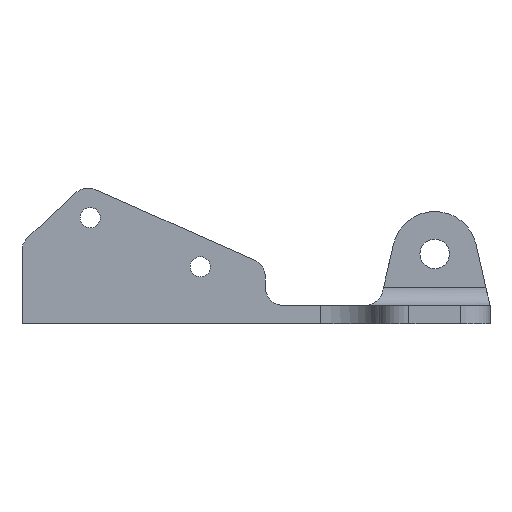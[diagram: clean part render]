
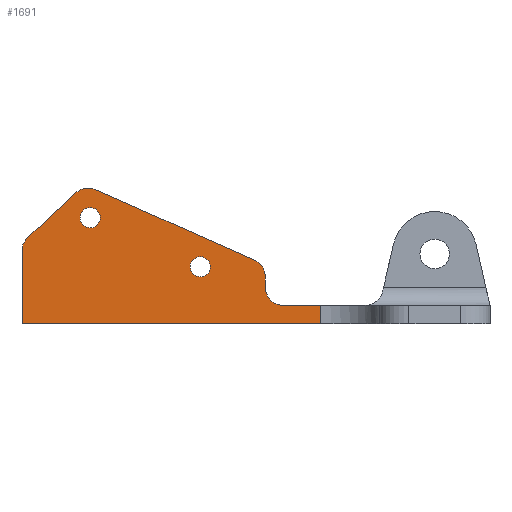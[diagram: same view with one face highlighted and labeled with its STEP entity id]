
A CAD part, left-side view. The second image highlights one B-rep face of the part: STEP entity #1691.
In plain terms, the highlighted planar face has unit normal (-1, 0, 0).
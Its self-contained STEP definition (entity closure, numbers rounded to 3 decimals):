
#114=CARTESIAN_POINT('Axis2P3D Location',(-11.2,78.606,15.519)) ;
#118=CARTESIAN_POINT('Vertex',(-11.2,81.356,15.519)) ;
#120=CARTESIAN_POINT('Vertex',(-11.2,75.856,15.519)) ;
#149=CARTESIAN_POINT('Axis2P3D Location',(-11.2,78.606,15.519)) ;
#171=CARTESIAN_POINT('Axis2P3D Location',(-11.2,108.502,28.83)) ;
#175=CARTESIAN_POINT('Vertex',(-11.2,105.752,28.83)) ;
#177=CARTESIAN_POINT('Vertex',(-11.2,111.252,28.83)) ;
#206=CARTESIAN_POINT('Axis2P3D Location',(-11.2,108.502,28.83)) ;
#902=CARTESIAN_POINT('Vertex',(-11.2,46.,0.)) ;
#905=CARTESIAN_POINT('Line Origine',(-11.2,86.5,0.)) ;
#909=CARTESIAN_POINT('Vertex',(-11.2,127.,0.)) ;
#1175=CARTESIAN_POINT('Line Origine',(-11.2,46.,2.5)) ;
#1179=CARTESIAN_POINT('Vertex',(-11.2,46.,5.)) ;
#1419=CARTESIAN_POINT('Vertex',(-11.2,112.42,35.565)) ;
#1422=CARTESIAN_POINT('Axis2P3D Location',(-11.2,109.014,31.904)) ;
#1426=CARTESIAN_POINT('Vertex',(-11.2,106.98,36.472)) ;
#1445=CARTESIAN_POINT('Vertex',(-11.2,63.966,17.321)) ;
#1455=CARTESIAN_POINT('Line Origine',(-11.2,85.473,26.896)) ;
#1479=CARTESIAN_POINT('Axis2P3D Location',(-11.2,66.,12.753)) ;
#1483=CARTESIAN_POINT('Vertex',(-11.2,61.,12.753)) ;
#1509=CARTESIAN_POINT('Vertex',(-11.2,61.,10.)) ;
#1517=CARTESIAN_POINT('Line Origine',(-11.2,61.,11.376)) ;
#1540=CARTESIAN_POINT('Vertex',(-11.2,56.,5.)) ;
#1548=CARTESIAN_POINT('Axis2P3D Location',(-11.2,56.,10.)) ;
#1622=CARTESIAN_POINT('Line Origine',(-11.2,118.913,29.524)) ;
#1626=CARTESIAN_POINT('Vertex',(-11.2,125.406,23.483)) ;
#1648=CARTESIAN_POINT('Axis2P3D Location',(-11.2,127.,0.)) ;
#1653=CARTESIAN_POINT('Line Origine',(-11.2,127.,9.911)) ;
#1657=CARTESIAN_POINT('Vertex',(-11.2,127.,19.823)) ;
#1660=CARTESIAN_POINT('Line Origine',(-11.2,51.,5.)) ;
#1665=CARTESIAN_POINT('Axis2P3D Location',(-11.2,122.,19.823)) ;
#115=DIRECTION('Axis2P3D Direction',(1.,0.,0.)) ;
#150=DIRECTION('Axis2P3D Direction',(1.,0.,0.)) ;
#172=DIRECTION('Axis2P3D Direction',(1.,0.,0.)) ;
#207=DIRECTION('Axis2P3D Direction',(1.,0.,0.)) ;
#906=DIRECTION('Vector Direction',(0.,-1.,0.)) ;
#1176=DIRECTION('Vector Direction',(0.,0.,1.)) ;
#1423=DIRECTION('Axis2P3D Direction',(1.,0.,0.)) ;
#1456=DIRECTION('Vector Direction',(0.,0.914,0.407)) ;
#1480=DIRECTION('Axis2P3D Direction',(1.,0.,0.)) ;
#1518=DIRECTION('Vector Direction',(0.,0.,1.)) ;
#1549=DIRECTION('Axis2P3D Direction',(1.,0.,0.)) ;
#1623=DIRECTION('Vector Direction',(0.,-0.732,0.681)) ;
#1649=DIRECTION('Axis2P3D Direction',(-1.,0.,0.)) ;
#1650=DIRECTION('Axis2P3D XDirection',(0.,-1.,0.)) ;
#1654=DIRECTION('Vector Direction',(0.,0.,-1.)) ;
#1661=DIRECTION('Vector Direction',(0.,-1.,0.)) ;
#1666=DIRECTION('Axis2P3D Direction',(-1.,0.,0.)) ;
#116=AXIS2_PLACEMENT_3D('Circle Axis2P3D',#114,#115,$) ;
#151=AXIS2_PLACEMENT_3D('Circle Axis2P3D',#149,#150,$) ;
#173=AXIS2_PLACEMENT_3D('Circle Axis2P3D',#171,#172,$) ;
#208=AXIS2_PLACEMENT_3D('Circle Axis2P3D',#206,#207,$) ;
#1424=AXIS2_PLACEMENT_3D('Circle Axis2P3D',#1422,#1423,$) ;
#1481=AXIS2_PLACEMENT_3D('Circle Axis2P3D',#1479,#1480,$) ;
#1550=AXIS2_PLACEMENT_3D('Circle Axis2P3D',#1548,#1549,$) ;
#1651=AXIS2_PLACEMENT_3D('Plane Axis2P3D',#1648,#1649,#1650) ;
#1667=AXIS2_PLACEMENT_3D('Circle Axis2P3D',#1665,#1666,$) ;
#1671=ORIENTED_EDGE('',*,*,#1659,.T.) ;
#1672=ORIENTED_EDGE('',*,*,#911,.T.) ;
#1673=ORIENTED_EDGE('',*,*,#1181,.T.) ;
#1674=ORIENTED_EDGE('',*,*,#1664,.F.) ;
#1675=ORIENTED_EDGE('',*,*,#1552,.T.) ;
#1676=ORIENTED_EDGE('',*,*,#1521,.T.) ;
#1677=ORIENTED_EDGE('',*,*,#1485,.F.) ;
#1678=ORIENTED_EDGE('',*,*,#1459,.T.) ;
#1679=ORIENTED_EDGE('',*,*,#1428,.F.) ;
#1680=ORIENTED_EDGE('',*,*,#1628,.F.) ;
#1681=ORIENTED_EDGE('',*,*,#1669,.F.) ;
#1684=ORIENTED_EDGE('',*,*,#210,.F.) ;
#1685=ORIENTED_EDGE('',*,*,#179,.F.) ;
#1688=ORIENTED_EDGE('',*,*,#153,.F.) ;
#1689=ORIENTED_EDGE('',*,*,#122,.F.) ;
#1686=FACE_BOUND('',#1683,.T.) ;
#1690=FACE_BOUND('',#1687,.T.) ;
#907=VECTOR('Line Direction',#906,1.) ;
#1177=VECTOR('Line Direction',#1176,1.) ;
#1457=VECTOR('Line Direction',#1456,1.) ;
#1519=VECTOR('Line Direction',#1518,1.) ;
#1624=VECTOR('Line Direction',#1623,1.) ;
#1655=VECTOR('Line Direction',#1654,1.) ;
#1662=VECTOR('Line Direction',#1661,1.) ;
#1691=ADVANCED_FACE('PartBody',(#1682,#1686,#1690),#1652,.T.) ;
#117=CIRCLE('generated circle',#116,2.75) ;
#152=CIRCLE('generated circle',#151,2.75) ;
#174=CIRCLE('generated circle',#173,2.75) ;
#209=CIRCLE('generated circle',#208,2.75) ;
#1425=CIRCLE('generated circle',#1424,5.) ;
#1482=CIRCLE('generated circle',#1481,5.) ;
#1551=CIRCLE('generated circle',#1550,5.) ;
#1668=CIRCLE('generated circle',#1667,5.) ;
#122=EDGE_CURVE('',#119,#121,#117,.F.) ;
#153=EDGE_CURVE('',#121,#119,#152,.F.) ;
#179=EDGE_CURVE('',#176,#178,#174,.F.) ;
#210=EDGE_CURVE('',#178,#176,#209,.F.) ;
#911=EDGE_CURVE('',#910,#903,#908,.T.) ;
#1181=EDGE_CURVE('',#903,#1180,#1178,.T.) ;
#1428=EDGE_CURVE('',#1420,#1427,#1425,.T.) ;
#1459=EDGE_CURVE('',#1446,#1427,#1458,.T.) ;
#1485=EDGE_CURVE('',#1446,#1484,#1482,.T.) ;
#1521=EDGE_CURVE('',#1510,#1484,#1520,.T.) ;
#1552=EDGE_CURVE('',#1541,#1510,#1551,.T.) ;
#1628=EDGE_CURVE('',#1627,#1420,#1625,.T.) ;
#1659=EDGE_CURVE('',#1658,#910,#1656,.T.) ;
#1664=EDGE_CURVE('',#1541,#1180,#1663,.T.) ;
#1669=EDGE_CURVE('',#1658,#1627,#1668,.F.) ;
#1670=EDGE_LOOP('',(#1671,#1672,#1673,#1674,#1675,#1676,#1677,#1678,#1679,#1680,#1681)) ;
#1683=EDGE_LOOP('',(#1684,#1685)) ;
#1687=EDGE_LOOP('',(#1688,#1689)) ;
#1682=FACE_OUTER_BOUND('',#1670,.T.) ;
#908=LINE('Line',#905,#907) ;
#1178=LINE('Line',#1175,#1177) ;
#1458=LINE('Line',#1455,#1457) ;
#1520=LINE('Line',#1517,#1519) ;
#1625=LINE('Line',#1622,#1624) ;
#1656=LINE('Line',#1653,#1655) ;
#1663=LINE('Line',#1660,#1662) ;
#1652=PLANE('',#1651) ;
#119=VERTEX_POINT('',#118) ;
#121=VERTEX_POINT('',#120) ;
#176=VERTEX_POINT('',#175) ;
#178=VERTEX_POINT('',#177) ;
#903=VERTEX_POINT('',#902) ;
#910=VERTEX_POINT('',#909) ;
#1180=VERTEX_POINT('',#1179) ;
#1420=VERTEX_POINT('',#1419) ;
#1427=VERTEX_POINT('',#1426) ;
#1446=VERTEX_POINT('',#1445) ;
#1484=VERTEX_POINT('',#1483) ;
#1510=VERTEX_POINT('',#1509) ;
#1541=VERTEX_POINT('',#1540) ;
#1627=VERTEX_POINT('',#1626) ;
#1658=VERTEX_POINT('',#1657) ;
